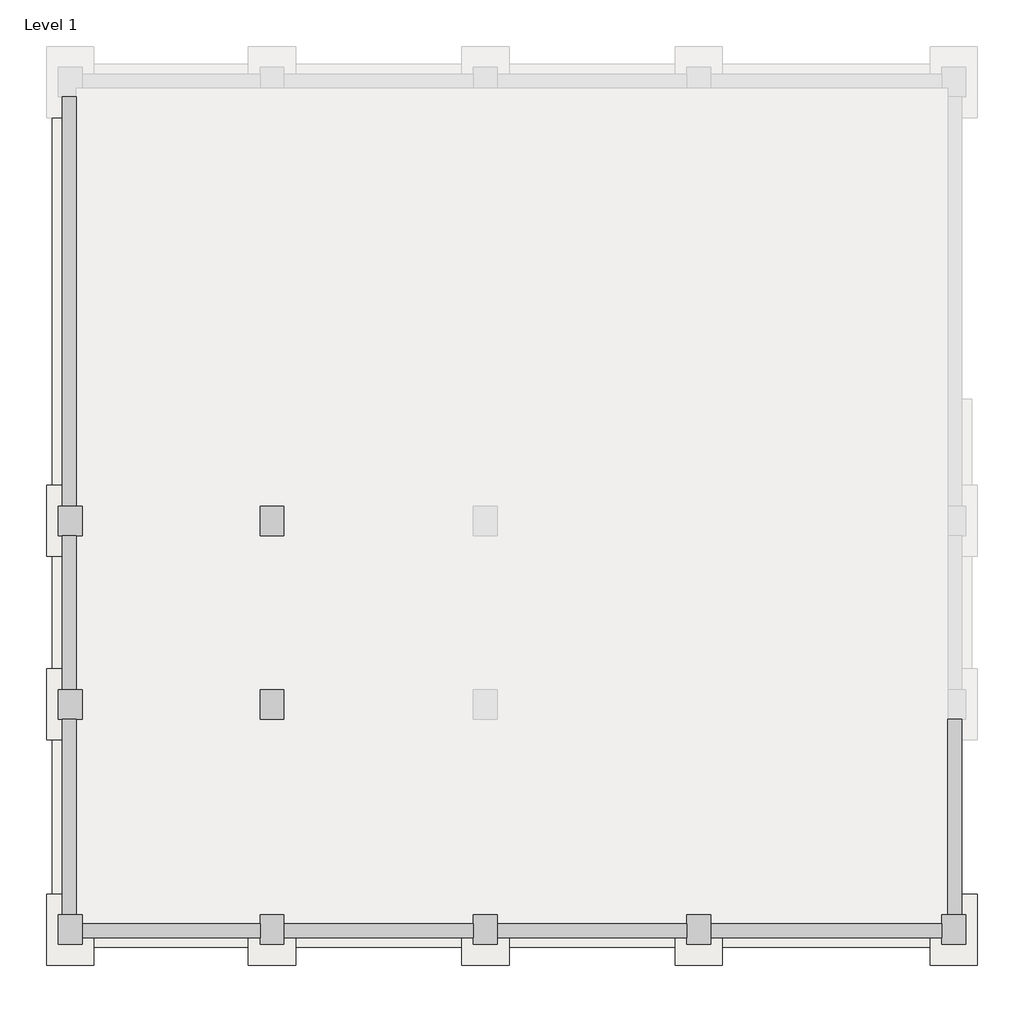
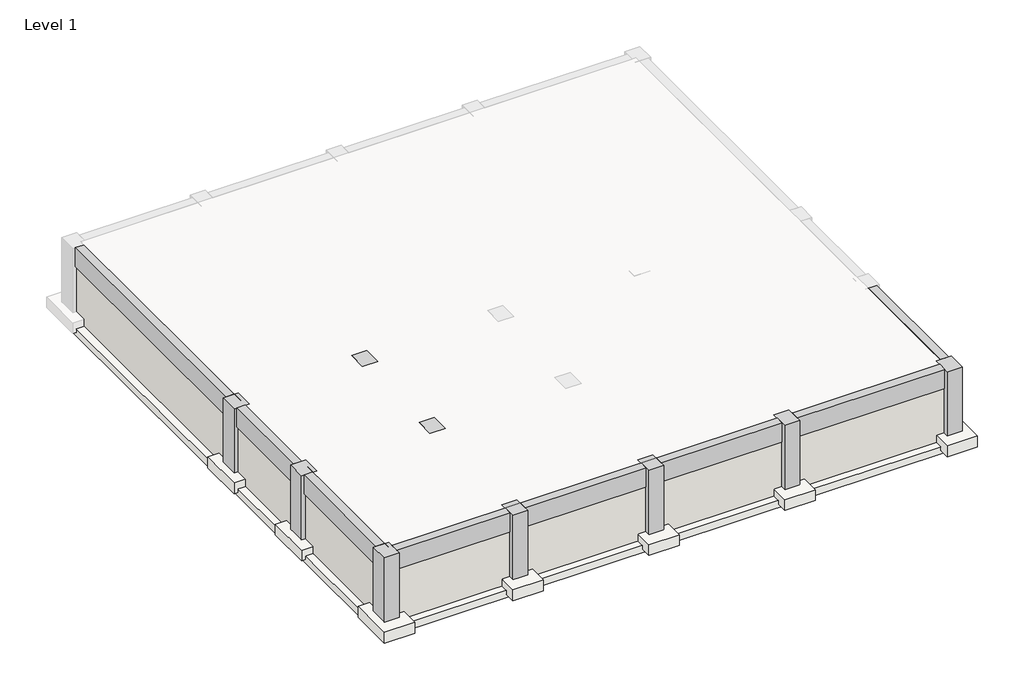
# One storey, part 1 of 2: 15 beams, 9 columns, 9 slabs, 4 walls, 2 footings.
"""IFC4 building model written with IfcOpenShell, lengths in millimetres."""

import ifcopenshell
import ifcopenshell.guid

model = None  # the IFC model being written
_history = None  # IfcOwnerHistory: only IFC2X3 demands one
_inside = {}  # id of a spatial element -> (the spatial element, [elements in it])
_under = {}  # id of a project, library or spatial element -> (it, [spatial elements below it])
_declared = {}  # id of a project -> (the project, [libraries it declares])
_typed = {}  # id of a type object -> (the type object, [elements of that type])
_made_of = {}  # id of a material, layer set ... -> (it, [elements and type objects made of it])


def new_model(schema):
    """Start an empty IFC model of exactly this schema.

    Asked for "IFC4X3", IfcOpenShell would pick the latest addendum, in which some entities
    have other attributes; the version numbers below select the first issue.
    IFC2X3 requires an IfcOwnerHistory on every rooted entity: one is made here for all.
    """
    global model, _history
    if schema == "IFC4X3":
        model = ifcopenshell.file(schema_version=(4, 3, 0, 0))
    else:
        model = ifcopenshell.file(schema=schema)
    _inside.clear()
    _under.clear()
    _declared.clear()
    _typed.clear()
    _made_of.clear()
    _history = None
    if model.schema == "IFC2X3":
        org = make("IfcOrganization", Name="unknown")
        user = make(
            "IfcPersonAndOrganization",
            ThePerson=make("IfcPerson", FamilyName="unknown"),
            TheOrganization=org,
        )
        app = make(
            "IfcApplication",
            ApplicationDeveloper=org,
            Version="unknown",
            ApplicationFullName="unknown",
            ApplicationIdentifier="unknown",
        )
        _history = make(
            "IfcOwnerHistory",
            OwningUser=user,
            OwningApplication=app,
            ChangeAction="ADDED",
            CreationDate=0,
        )
    return model


def make(cls, **values):
    """One entity of the class cls with the attributes given. An attribute that is None is left unset."""
    return model.create_entity(
        cls, **{name: value for name, value in values.items() if value is not None}
    )


def rooted(cls, **values):
    """An entity with a GlobalId (a new one), such as an element, a storey or a relation."""
    return make(cls, GlobalId=ifcopenshell.guid.new(), OwnerHistory=_history, **values)


def si_unit(unit_type, name, prefix=None):
    """IfcSIUnit, for example si_unit("LENGTHUNIT", "METRE", prefix="MILLI")."""
    return make("IfcSIUnit", UnitType=unit_type, Prefix=prefix, Name=name)


def assignment(units):
    """IfcUnitAssignment: the units of a project."""
    return None if units is None else make("IfcUnitAssignment", Units=units)


def point(xyz):
    """IfcCartesianPoint."""
    return None if xyz is None else make("IfcCartesianPoint", Coordinates=xyz)


def direction(xyz):
    """IfcDirection."""
    return None if xyz is None else make("IfcDirection", DirectionRatios=xyz)


def frame(location, z_axis=None, x_axis=None):
    """IfcAxis2Placement3D, a coordinate frame: its origin and axes. An axis left out is left unset."""
    return make(
        "IfcAxis2Placement3D",
        Location=point(location),
        Axis=direction(z_axis),
        RefDirection=direction(x_axis),
    )


def origin():
    """The frame at (0, 0, 0) with its axes left unset."""
    return frame((0.0, 0.0, 0.0))


def place(relative_to, where):
    """IfcLocalPlacement: puts the frame where relative to a parent placement (None: the world)."""
    return make(
        "IfcLocalPlacement", PlacementRelTo=relative_to, RelativePlacement=where
    )


def context(
    kind, dimensions, precision=None, world=None, true_north=None, identifier=None
):
    """IfcGeometricRepresentationContext, for example the 3D "Model" context."""
    return make(
        "IfcGeometricRepresentationContext",
        ContextIdentifier=identifier,
        ContextType=kind,
        CoordinateSpaceDimension=dimensions,
        Precision=precision,
        WorldCoordinateSystem=world,
        TrueNorth=true_north,
    )


def project(units=None, contexts=None):
    """IfcProject with its units and contexts."""
    return rooted(
        "IfcProject",
        Name="project",
        RepresentationContexts=contexts,
        UnitsInContext=assignment(units),
    )


def spatial(cls, under=None, at=None, **own):
    """A site, building, storey or space (cls), placed at a placement, below another one or the project."""
    s = rooted(cls, ObjectPlacement=at, **own)
    if under is not None:
        _under.setdefault(under.id(), (under, []))[1].append(s)
    return s


def polyline(points):
    """IfcPolyline through the points."""
    return make("IfcPolyline", Points=[point(p) for p in points])


def outline(outer, holes=None, kind="AREA"):
    """IfcArbitraryClosedProfileDef: a profile drawn as a closed curve; with holes, ...WithVoids."""
    if holes is None:
        return make("IfcArbitraryClosedProfileDef", ProfileType=kind, OuterCurve=outer)
    return make(
        "IfcArbitraryProfileDefWithVoids",
        ProfileType=kind,
        OuterCurve=outer,
        InnerCurves=holes,
    )


def extrude(swept, where, along, depth):
    """IfcExtrudedAreaSolid: the profile swept, set in the frame where, extruded along a direction by depth."""
    return make(
        "IfcExtrudedAreaSolid",
        SweptArea=swept,
        Position=where,
        ExtrudedDirection=direction(along),
        Depth=depth,
    )


def faces_of(points, faces, orient=None, outer=None):
    """IfcFace entities. A face is a list of loops; a loop is a list of indices into points, from 0.

    orient and outer hold one flag for each loop. By default every Orientation is true, the
    first loop of a face is its IfcFaceOuterBound and the others are IfcFaceBound.
    """
    made = []
    for i, loops in enumerate(faces):
        bounds = []
        for j, loop in enumerate(loops):
            is_outer = j == 0 if outer is None else outer[i][j]
            bounds.append(
                make(
                    "IfcFaceOuterBound" if is_outer else "IfcFaceBound",
                    Bound=make("IfcPolyLoop", Polygon=[points[k] for k in loop]),
                    Orientation=True if orient is None else orient[i][j],
                )
            )
        made.append(make("IfcFace", Bounds=bounds))
    return made


def faceted_brep(points, faces, orient=None, outer=None, voids=None):
    """IfcFacetedBrep: a solid bounded by flat faces; with voids (closed shells), ...WithVoids."""
    shared = [point(p) for p in points]
    hull = make("IfcClosedShell", CfsFaces=faces_of(shared, faces, orient, outer))
    if voids is None:
        return make("IfcFacetedBrep", Outer=hull)
    return make(
        "IfcFacetedBrepWithVoids",
        Outer=hull,
        Voids=[
            make(cls, CfsFaces=faces_of(shared, fs, o, b)) for cls, fs, o, b in voids
        ],
    )


def shape(context_of_items, identifier, shape_type, items):
    """IfcShapeRepresentation: the items that make up one representation, for example the "Body"."""
    return make(
        "IfcShapeRepresentation",
        ContextOfItems=context_of_items,
        RepresentationIdentifier=identifier,
        RepresentationType=shape_type,
        Items=items,
    )


def source(mapping_origin, context_of_items, identifier, shape_type, items):
    """IfcRepresentationMap: a shape defined once, which mapped items show again and again."""
    return make(
        "IfcRepresentationMap",
        MappingOrigin=mapping_origin,
        MappedRepresentation=shape(context_of_items, identifier, shape_type, items),
    )


def transform(
    local_origin,
    x_axis=None,
    y_axis=None,
    z_axis=None,
    scale=None,
    scale2=None,
    scale3=None,
    uniform=True,
):
    """IfcCartesianTransformationOperator3D, or its non-uniform kind. x_axis, y_axis, z_axis: its Axis1, 2, 3."""
    if uniform:
        return make(
            "IfcCartesianTransformationOperator3D",
            Axis1=direction(x_axis),
            Axis2=direction(y_axis),
            LocalOrigin=point(local_origin),
            Scale=scale,
            Axis3=direction(z_axis),
        )
    return make(
        "IfcCartesianTransformationOperator3DnonUniform",
        Axis1=direction(x_axis),
        Axis2=direction(y_axis),
        LocalOrigin=point(local_origin),
        Scale=scale,
        Axis3=direction(z_axis),
        Scale2=scale2,
        Scale3=scale3,
    )


def mapped(mapping_source, mapping_target):
    """IfcMappedItem: shows the shape of a source again, moved by a transform."""
    return make(
        "IfcMappedItem", MappingSource=mapping_source, MappingTarget=mapping_target
    )


def made_of(thing, what):
    """Note that an element or type object is made of a material, layer set ...; save() writes the relation."""
    if what is not None:
        _made_of.setdefault(what.id(), (what, []))[1].append(thing)
    return thing


def element(
    cls,
    number,
    at=None,
    inside=None,
    cuts=None,
    type_object=None,
    material=None,
    context=None,
    identifier="Body",
    shape_type=None,
    held_by="IfcProductDefinitionShape",
    body=None,
    shapes=None,
    **own,
):
    """One element of the class cls, such as IfcWall. Its Tag is "e" and its number.

    at: its placement. inside: the storey or other place that contains it. cuts: it is an
    opening in that element (IfcRelVoidsElement). A single representation is given by context,
    identifier, shape_type and body (its items); several are given by shapes. held_by: the class
    of the entity that holds the representations. save() writes the other relations.
    """
    e = rooted(cls, Tag="e%d" % number, ObjectPlacement=at, **own)
    if body is not None:
        shapes = [shape(context, identifier, shape_type, body)]
    if shapes is not None:
        e.Representation = make(held_by, Representations=shapes)
    if inside is not None:
        _inside.setdefault(inside.id(), (inside, []))[1].append(e)
    if cuts is not None:
        rooted(
            "IfcRelVoidsElement", RelatingBuildingElement=cuts, RelatedOpeningElement=e
        )
    if type_object is not None:
        _typed.setdefault(type_object.id(), (type_object, []))[1].append(e)
    return made_of(e, material)


def aggregate(whole, parts):
    """IfcRelAggregates: a whole, such as a stair, and the parts it consists of."""
    return rooted("IfcRelAggregates", RelatingObject=whole, RelatedObjects=parts)


def save(model, path):
    """Write the relations noted so far, then the file.

    IfcRelAggregates (storeys below a building ...), IfcRelContainedInSpatialStructure (elements
    in a storey), IfcRelDefinesByType, IfcRelAssociatesMaterial and IfcRelDeclares: one each for
    every whole, place, type object, material and project.
    """
    for whole, parts in _under.values():
        aggregate(whole, parts)
    for where, things in _inside.values():
        rooted(
            "IfcRelContainedInSpatialStructure",
            RelatedElements=things,
            RelatingStructure=where,
        )
    for kind, things in _typed.values():
        rooted("IfcRelDefinesByType", RelatedObjects=things, RelatingType=kind)
    for what, things in _made_of.values():
        rooted("IfcRelAssociatesMaterial", RelatedObjects=things, RelatingMaterial=what)
    for by, libraries in _declared.values():
        rooted("IfcRelDeclares", RelatingContext=by, RelatedDefinitions=libraries)
    model.write(path)


def slab_5ba74754(model_context):
    return source(origin(), model_context, "Body", "SweptSolid", [
        extrude(outline(polyline([(609.6, 914.4), (609.6, -914.4), (-609.6, -914.4), (-609.6, 914.4), (609.6, 914.4)])), frame((0.0, 0.0, -457.2), z_axis=(0.0, 0.0, 1.0), x_axis=(1.0, 0.0, 0.0)), (0.0, 0.0, 1.0), 457.2),
    ])


model = new_model("IFC4")

# Units and contexts
model_context = context("Model", 3, world=origin())
ifc_project = project(units=[si_unit("LENGTHUNIT", "METRE", prefix="MILLI")], contexts=[model_context])

# Site, building, storey
site = spatial("IfcSite", under=ifc_project)
building = spatial("IfcBuilding", under=site)
storey = spatial("IfcBuildingStorey", under=building, Name="Level 1", Elevation=0.0)

# Beams
placement = place(None, origin())
element("IfcBeam", 1, ObjectType="Concrete-Rectangular Beam : 16 x 32", at=placement, inside=storey, context=model_context, shape_type="SweptSolid", body=[
    extrude(outline(polyline([(0.0, -23099.4436514), (-812.8, -23099.4436514), (-812.8, -23048.6436514), (-609.6, -23048.6436514), (-609.6, -22743.8436514), (-812.8, -22743.8436514), (-812.8, -22693.0436514), (-152.4, -22693.0436514), (-152.4, -22743.8436514), (0.0, -22743.8436514), (0.0, -23099.4436514)])), frame((0.0, 5357.9493152, 0.0), z_axis=(0.0, 1.0, 0.0), x_axis=(0.0, 0.0, 1.0)), (0.0, 0.0, 1.0), 10515.8114283),
])
element("IfcBeam", 2, ObjectType="Concrete-Rectangular Beam : 16 x 32", at=placement, inside=storey, context=model_context, shape_type="SweptSolid", body=[
    extrude(outline(polyline([(0.0, -23099.4436514), (-812.8, -23099.4436514), (-812.8, -23048.6436514), (-609.6, -23048.6436514), (-609.6, -22743.8436514), (-812.8, -22743.8436514), (-812.8, -22693.0436514), (-152.4, -22693.0436514), (-152.4, -22743.8436514), (0.0, -22743.8436514), (0.0, -23099.4436514)])), frame((0.0, -5149.0224478, 0.0), z_axis=(0.0, 1.0, 0.0), x_axis=(0.0, 0.0, 1.0)), (0.0, 0.0, 1.0), 5029.2),
])
element("IfcBeam", 3, ObjectType="Concrete-Rectangular Beam : 16 x 32", at=placement, inside=storey, context=model_context, shape_type="SweptSolid", body=[
    extrude(outline(polyline([(-5733.2224478, -812.8), (-5733.2224478, 0.0), (-5377.6224478, 0.0), (-5377.6224478, -152.4), (-5326.8224478, -152.4), (-5326.8224478, -812.8), (-5377.6224478, -812.8), (-5377.6224478, -609.6), (-5682.4224478, -609.6), (-5682.4224478, -812.8), (-5733.2224478, -812.8)])), frame((-22591.4436514, 0.0, 0.0), z_axis=(1.0, 0.0, 0.0), x_axis=(0.0, 1.0, 0.0)), (0.0, 0.0, 1.0), 4572.0),
])
element("IfcBeam", 4, ObjectType="Concrete-Rectangular Beam : 16 x 32", at=placement, inside=storey, context=model_context, shape_type="SweptSolid", body=[
    extrude(outline(polyline([(0.0, -23099.4436514), (-812.8, -23099.4436514), (-812.8, -23048.6436514), (-609.6, -23048.6436514), (-609.6, -22743.8436514), (-812.8, -22743.8436514), (-812.8, -22693.0436514), (-152.4, -22693.0436514), (-152.4, -22743.8436514), (0.0, -22743.8436514), (0.0, -23099.4436514)])), frame((0.0, 642.1775522, 0.0), z_axis=(0.0, 1.0, 0.0), x_axis=(0.0, 0.0, 1.0)), (0.0, 0.0, 1.0), 3953.7717631),
])
element("IfcBeam", 5, ObjectType="Concrete-Rectangular Beam : 16 x 32", at=placement, inside=storey, context=model_context, shape_type="SweptSolid", body=[
    extrude(outline(polyline([(-5733.2224478, -812.8), (-5733.2224478, 0.0), (-5377.6224478, 0.0), (-5377.6224478, -152.4), (-5326.8224478, -152.4), (-5326.8224478, -812.8), (-5377.6224478, -812.8), (-5377.6224478, -609.6), (-5682.4224478, -609.6), (-5682.4224478, -812.8), (-5733.2224478, -812.8)])), frame((-17409.8436514, 0.0, 0.0), z_axis=(1.0, 0.0, 0.0), x_axis=(0.0, 1.0, 0.0)), (0.0, 0.0, 1.0), 4876.8),
])
element("IfcBeam", 6, ObjectType="Concrete-Rectangular Beam : 16 x 32", at=placement, inside=storey, context=model_context, shape_type="SweptSolid", body=[
    extrude(outline(polyline([(-5733.2224478, -812.8), (-5733.2224478, 0.0), (-5377.6224478, 0.0), (-5377.6224478, -152.4), (-5326.8224478, -152.4), (-5326.8224478, -812.8), (-5377.6224478, -812.8), (-5377.6224478, -609.6), (-5682.4224478, -609.6), (-5682.4224478, -812.8), (-5733.2224478, -812.8)])), frame((-11923.4436514, 0.0, 0.0), z_axis=(1.0, 0.0, 0.0), x_axis=(0.0, 1.0, 0.0)), (0.0, 0.0, 1.0), 4876.8),
])
element("IfcBeam", 7, ObjectType="Concrete-Rectangular Beam : 16 x 32", at=placement, inside=storey, context=model_context, shape_type="SweptSolid", body=[
    extrude(outline(polyline([(-5733.2224478, -812.8), (-5733.2224478, 0.0), (-5377.6224478, 0.0), (-5377.6224478, -152.4), (-5326.8224478, -152.4), (-5326.8224478, -812.8), (-5377.6224478, -812.8), (-5377.6224478, -609.6), (-5682.4224478, -609.6), (-5682.4224478, -812.8), (-5733.2224478, -812.8)])), frame((-6437.0436514, 0.0, 0.0), z_axis=(1.0, 0.0, 0.0), x_axis=(0.0, 1.0, 0.0)), (0.0, 0.0, 1.0), 5943.6),
])
element("IfcBeam", 8, ObjectType="Concrete-Rectangular Beam : 16 x 32", at=placement, inside=storey, context=model_context, shape_type="SweptSolid", body=[
    extrude(outline(polyline([(-812.8, 14.5563486), (0.0, 14.5563486), (0.0, -341.0436514), (-152.4, -341.0436514), (-152.4, -391.8436514), (-812.8, -391.8436514), (-812.8, 14.5563486)])), frame((0.0, -5149.0224478, 0.0), z_axis=(0.0, 1.0, 0.0), x_axis=(0.0, 0.0, 1.0)), (0.0, 0.0, 1.0), 5029.2),
])
element("IfcBeam", 9, ObjectType="Concrete-Rectangular Beam : 16 x 32", at=placement, inside=storey, context=model_context, shape_type="SweptSolid", body=[
    extrude(outline(polyline([(-17917.8436514, 5357.9493152), (-17917.8436514, 15873.7607436), (-17511.4436514, 15873.7607436), (-17511.4436514, 5357.9493152), (-17917.8436514, 5357.9493152)])), frame((0.0, 0.0, -812.8), z_axis=(0.0, 0.0, 1.0), x_axis=(1.0, 0.0, 0.0)), (0.0, 0.0, 1.0), 660.4),
])
element("IfcBeam", 10, ObjectType="Concrete-Rectangular Beam : 16 x 32", at=placement, inside=storey, context=model_context, shape_type="SweptSolid", body=[
    extrude(outline(polyline([(-17917.8436514, 4595.9493152), (-17511.4436514, 4595.9493152), (-17511.4436514, 642.1775522), (-17917.8436514, 642.1775522), (-17917.8436514, 4595.9493152)])), frame((0.0, 0.0, -812.8), z_axis=(0.0, 0.0, 1.0), x_axis=(1.0, 0.0, 0.0)), (0.0, 0.0, 1.0), 660.4),
])
element("IfcBeam", 11, ObjectType="Concrete-Rectangular Beam : 16 x 32", at=placement, inside=storey, context=model_context, shape_type="SweptSolid", body=[
    extrude(outline(polyline([(-17917.8436514, -5149.0224478), (-17917.8436514, -119.8224478), (-17511.4436514, -119.8224478), (-17511.4436514, -5149.0224478), (-17917.8436514, -5149.0224478)])), frame((0.0, 0.0, -812.8), z_axis=(0.0, 0.0, 1.0), x_axis=(1.0, 0.0, 0.0)), (0.0, 0.0, 1.0), 660.4),
])
element("IfcBeam", 12, ObjectType="Concrete-Rectangular Beam : 16 x 32", at=placement, inside=storey, context=model_context, shape_type="SweptSolid", body=[
    extrude(outline(polyline([(-12431.4436514, -5149.0224478), (-12431.4436514, -119.8224478), (-12025.0436514, -119.8224478), (-12025.0436514, -5149.0224478), (-12431.4436514, -5149.0224478)])), frame((0.0, 0.0, -812.8), z_axis=(0.0, 0.0, 1.0), x_axis=(1.0, 0.0, 0.0)), (0.0, 0.0, 1.0), 660.4),
])
element("IfcBeam", 13, ObjectType="Concrete-Rectangular Beam : 16 x 32", at=placement, inside=storey, context=model_context, shape_type="SweptSolid", body=[
    extrude(outline(polyline([(-6945.0436514, -5149.0224478), (-6945.0436514, -119.8224478), (-6538.6436514, -119.8224478), (-6538.6436514, -5149.0224478), (-6945.0436514, -5149.0224478)])), frame((0.0, 0.0, -812.8), z_axis=(0.0, 0.0, 1.0), x_axis=(1.0, 0.0, 0.0)), (0.0, 0.0, 1.0), 660.4),
])
element("IfcBeam", 14, ObjectType="Concrete-Rectangular Beam : 16 x 32", at=placement, inside=storey, context=model_context, shape_type="SweptSolid", body=[
    extrude(outline(polyline([(-22591.4436514, 4773.7493152), (-22591.4436514, 5180.1493152), (-18019.4436514, 5180.1493152), (-18019.4436514, 4773.7493152), (-22591.4436514, 4773.7493152)])), frame((0.0, 0.0, -812.8), z_axis=(0.0, 0.0, 1.0), x_axis=(1.0, 0.0, 0.0)), (0.0, 0.0, 1.0), 660.4),
])
element("IfcBeam", 15, ObjectType="Concrete-Rectangular Beam : 16 x 32", at=placement, inside=storey, context=model_context, shape_type="SweptSolid", body=[
    extrude(outline(polyline([(-22591.4436514, 57.9775522), (-22591.4436514, 464.3775522), (-18019.4436514, 464.3775522), (-18019.4436514, 57.9775522), (-22591.4436514, 57.9775522)])), frame((0.0, 0.0, -812.8), z_axis=(0.0, 0.0, 1.0), x_axis=(1.0, 0.0, 0.0)), (0.0, 0.0, 1.0), 660.4),
])

# Columns
element("IfcColumn", 16, ObjectType="Concrete-Rectangular-Column : 24 x 30", at=placement, inside=storey, context=model_context, shape_type="SweptSolid", body=[
    extrude(outline(polyline([(-2743.2, -22591.4436514), (0.0, -22591.4436514), (0.0, -23201.0436514), (-2743.2, -23201.0436514), (-2743.2, -23048.6436514), (-609.6, -23048.6436514), (-609.6, -22743.8436514), (-2743.2, -22743.8436514), (-2743.2, -22591.4436514)])), frame((0.0, 4595.9493152, 0.0), z_axis=(0.0, 1.0, 0.0), x_axis=(0.0, 0.0, 1.0)), (0.0, 0.0, 1.0), 762.0),
])
element("IfcColumn", 17, ObjectType="Concrete-Rectangular-Column : 24 x 30", at=placement, inside=storey, context=model_context, shape_type="SweptSolid", body=[
    extrude(outline(polyline([(-17409.8436514, 5357.9493152), (-17409.8436514, 4595.9493152), (-18019.4436514, 4595.9493152), (-18019.4436514, 5357.9493152), (-17409.8436514, 5357.9493152)])), frame((0.0, 0.0, -2743.2), z_axis=(0.0, 0.0, 1.0), x_axis=(1.0, 0.0, 0.0)), (0.0, 0.0, 1.0), 2743.2),
])
element("IfcColumn", 18, ObjectType="Concrete-Rectangular-Column : 24 x 30", at=placement, inside=storey, context=model_context, shape_type="Brep", body=[
    faceted_brep([(-22743.8436514, -5149.0224478, -2743.2), (-22591.4436514, -5149.0224478, -2743.2), (-22591.4436514, -5377.6224478, -2743.2), (-22743.8436514, -5377.6224478, -2743.2), (-22591.4436514, -5149.0224478, 0.0), (-22591.4436514, -5911.0224478, 0.0), (-22591.4436514, -5911.0224478, -2743.2), (-22591.4436514, -5682.4224478, -2743.2), (-22591.4436514, -5682.4224478, -609.6), (-22591.4436514, -5377.6224478, -609.6), (-23201.0436514, -5911.0224478, -2743.2), (-23201.0436514, -5911.0224478, 0.0), (-23201.0436514, -5149.0224478, -2743.2), (-23201.0436514, -5149.0224478, 0.0), (-22743.8436514, -5149.0224478, -609.6), (-23048.6436514, -5149.0224478, -609.6), (-23048.6436514, -5149.0224478, -2743.2), (-23048.6436514, -5682.4224478, -609.6), (-23048.6436514, -5682.4224478, -2743.2), (-22743.8436514, -5377.6224478, -609.6), (-22743.8436514, -5682.4224478, -609.6)], [[[0, 1, 2, 3]], [[4, 5, 6, 7, 8, 9, 2, 1]], [[10, 6, 5, 11]], [[12, 10, 11, 13]], [[4, 1, 0, 14, 15, 16, 12, 13]], [[5, 4, 13, 11]], [[15, 17, 18, 16]], [[14, 0, 3, 19]], [[17, 15, 14, 19, 9, 8, 20]], [[17, 20, 8, 7, 18]], [[9, 19, 3, 2]], [[6, 10, 12, 16, 18, 7]]]),
])
element("IfcColumn", 19, ObjectType="Concrete-Rectangular-Column : 24 x 30", at=placement, inside=storey, context=model_context, shape_type="SweptSolid", body=[
    extrude(outline(polyline([(-5911.0224478, -2743.2), (-5911.0224478, 0.0), (-5149.0224478, 0.0), (-5149.0224478, -2743.2), (-5377.6224478, -2743.2), (-5377.6224478, -609.6), (-5682.4224478, -609.6), (-5682.4224478, -2743.2), (-5911.0224478, -2743.2)])), frame((-18019.4436514, 0.0, 0.0), z_axis=(1.0, 0.0, 0.0), x_axis=(0.0, 1.0, 0.0)), (0.0, 0.0, 1.0), 609.6),
])
element("IfcColumn", 20, ObjectType="Concrete-Rectangular-Column : 24 x 30", at=placement, inside=storey, context=model_context, shape_type="SweptSolid", body=[
    extrude(outline(polyline([(-5911.0224478, -2743.2), (-5911.0224478, 0.0), (-5149.0224478, 0.0), (-5149.0224478, -2743.2), (-5377.6224478, -2743.2), (-5377.6224478, -609.6), (-5682.4224478, -609.6), (-5682.4224478, -2743.2), (-5911.0224478, -2743.2)])), frame((-12533.0436514, 0.0, 0.0), z_axis=(1.0, 0.0, 0.0), x_axis=(0.0, 1.0, 0.0)), (0.0, 0.0, 1.0), 609.6),
])
element("IfcColumn", 21, ObjectType="Concrete-Rectangular-Column : 24 x 30", at=placement, inside=storey, context=model_context, shape_type="SweptSolid", body=[
    extrude(outline(polyline([(-5911.0224478, -2743.2), (-5911.0224478, 0.0), (-5149.0224478, 0.0), (-5149.0224478, -2743.2), (-5377.6224478, -2743.2), (-5377.6224478, -609.6), (-5682.4224478, -609.6), (-5682.4224478, -2743.2), (-5911.0224478, -2743.2)])), frame((-7046.6436514, 0.0, 0.0), z_axis=(1.0, 0.0, 0.0), x_axis=(0.0, 1.0, 0.0)), (0.0, 0.0, 1.0), 609.6),
])
element("IfcColumn", 22, ObjectType="Concrete-Rectangular-Column : 24 x 30", at=placement, inside=storey, context=model_context, shape_type="Brep", body=[
    faceted_brep([(116.1563486, -5149.0224478, -2743.2), (116.1563486, -5911.0224478, -2743.2), (-493.4436514, -5911.0224478, -2743.2), (-493.4436514, -5682.4224478, -2743.2), (-188.6436514, -5682.4224478, -2743.2), (-188.6436514, -5377.6224478, -2743.2), (-493.4436514, -5377.6224478, -2743.2), (-493.4436514, -5149.0224478, -2743.2), (116.1563486, -5149.0224478, 0.0), (116.1563486, -5911.0224478, 0.0), (-493.4436514, -5911.0224478, 0.0), (-493.4436514, -5149.0224478, 0.0), (-493.4436514, -5377.6224478, -609.6), (-493.4436514, -5682.4224478, -609.6), (-188.6436514, -5682.4224478, -609.6), (-188.6436514, -5377.6224478, -609.6)], [[[0, 1, 2, 3, 4, 5, 6, 7]], [[1, 0, 8, 9]], [[2, 1, 9, 10]], [[2, 10, 11, 7, 6, 12, 13, 3]], [[0, 7, 11, 8]], [[9, 8, 11, 10]], [[13, 14, 4, 3]], [[5, 15, 12, 6]], [[15, 14, 13, 12]], [[14, 15, 5, 4]]]),
])
element("IfcColumn", 23, ObjectType="Concrete-Rectangular-Column : 24 x 30", at=placement, inside=storey, context=model_context, shape_type="SweptSolid", body=[
    extrude(outline(polyline([(-2743.2, -22591.4436514), (0.0, -22591.4436514), (0.0, -23201.0436514), (-2743.2, -23201.0436514), (-2743.2, -23048.6436514), (-609.6, -23048.6436514), (-609.6, -22743.8436514), (-2743.2, -22743.8436514), (-2743.2, -22591.4436514)])), frame((0.0, -119.8224478, 0.0), z_axis=(0.0, 1.0, 0.0), x_axis=(0.0, 0.0, 1.0)), (0.0, 0.0, 1.0), 762.0),
])
element("IfcColumn", 24, ObjectType="Concrete-Rectangular-Column : 24 x 30", at=placement, inside=storey, context=model_context, shape_type="SweptSolid", body=[
    extrude(outline(polyline([(-17409.8436514, 642.1775522), (-17409.8436514, -119.8224478), (-18019.4436514, -119.8224478), (-18019.4436514, 642.1775522), (-17409.8436514, 642.1775522)])), frame((0.0, 0.0, -2743.2), z_axis=(0.0, 0.0, 1.0), x_axis=(1.0, 0.0, 0.0)), (0.0, 0.0, 1.0), 2743.2),
])

# Footings
element("IfcFooting", 25, ObjectType="Bearing Footing - 36\" x 12\"", at=placement, inside=storey, context=model_context, shape_type="Brep", body=[
    faceted_brep([(-188.6436514, -5987.2224478, -3352.8), (-188.6436514, -5072.8224478, -3352.8), (-188.6436514, -5072.8224478, -3200.4), (-188.6436514, -5987.2224478, -3200.4), (-22286.6436514, -5072.8224478, -3048.0), (-22286.6436514, -5987.2224478, -3048.0), (-18324.2436514, -5987.2224478, -3048.0), (-18324.2436514, -5072.8224478, -3048.0), (-17105.0436514, -5072.8224478, -3048.0), (-17105.0436514, -5987.2224478, -3048.0), (-12837.8436514, -5987.2224478, -3048.0), (-12837.8436514, -5072.8224478, -3048.0), (-11618.6436514, -5072.8224478, -3048.0), (-11618.6436514, -5987.2224478, -3048.0), (-7351.4436514, -5987.2224478, -3048.0), (-7351.4436514, -5072.8224478, -3048.0), (-6132.2436514, -5072.8224478, -3048.0), (-6132.2436514, -5987.2224478, -3048.0), (-798.2436514, -5987.2224478, -3048.0), (-798.2436514, -5072.8224478, -3048.0), (-22439.0436514, -5072.8224478, -3352.8), (-23353.4436514, -5072.8224478, -3352.8), (-23353.4436514, -5072.8224478, -3200.4), (-22439.0436514, -5072.8224478, -3200.4), (-22286.6436514, -5072.8224478, -3200.4), (-18324.2436514, -5072.8224478, -3200.4), (-17105.0436514, -5072.8224478, -3200.4), (-12837.8436514, -5072.8224478, -3200.4), (-11618.6436514, -5072.8224478, -3200.4), (-7351.4436514, -5072.8224478, -3200.4), (-6132.2436514, -5072.8224478, -3200.4), (-798.2436514, -5072.8224478, -3200.4), (-23353.4436514, -5987.2224478, -3352.8), (-798.2436514, -5987.2224478, -3200.4), (-6132.2436514, -5987.2224478, -3200.4), (-7351.4436514, -5987.2224478, -3200.4), (-11618.6436514, -5987.2224478, -3200.4), (-12837.8436514, -5987.2224478, -3200.4), (-17105.0436514, -5987.2224478, -3200.4), (-18324.2436514, -5987.2224478, -3200.4), (-22286.6436514, -5987.2224478, -3200.4), (-23353.4436514, -5987.2224478, -3200.4)], [[[0, 1, 2, 3]], [[4, 5, 6, 7]], [[8, 9, 10, 11]], [[12, 13, 14, 15]], [[16, 17, 18, 19]], [[1, 20, 21, 22, 23, 24, 4, 7, 25, 26, 8, 11, 27, 28, 12, 15, 29, 30, 16, 19, 31, 2]], [[1, 0, 32, 21, 20]], [[32, 0, 3, 33, 18, 17, 34, 35, 14, 13, 36, 37, 10, 9, 38, 39, 6, 5, 40, 41]], [[40, 24, 23, 22, 41]], [[24, 40, 5, 4]], [[25, 39, 38, 26]], [[39, 25, 7, 6]], [[26, 38, 9, 8]], [[27, 37, 36, 28]], [[37, 27, 11, 10]], [[28, 36, 13, 12]], [[29, 35, 34, 30]], [[35, 29, 15, 14]], [[30, 34, 17, 16]], [[31, 33, 3, 2]], [[33, 31, 19, 18]], [[21, 32, 41, 22]]]),
])
element("IfcFooting", 26, ObjectType="Bearing Footing - 36\" x 12\"", at=placement, inside=storey, context=model_context, shape_type="SweptSolid", body=[
    extrude(outline(polyline([(15340.3607436, -3048.0), (15340.3607436, -3200.4), (15797.5607436, -3200.4), (15797.5607436, -3352.8), (-5072.8224478, -3352.8), (-5072.8224478, -3200.4), (-4615.6224478, -3200.4), (-4615.6224478, -3048.0), (-653.2224478, -3048.0), (-653.2224478, -3200.4), (1175.5775522, -3200.4), (1175.5775522, -3048.0), (4062.5493152, -3048.0), (4062.5493152, -3200.4), (5891.3493152, -3200.4), (5891.3493152, -3048.0), (15340.3607436, -3048.0)])), frame((-23353.4436514, 0.0, 0.0), z_axis=(1.0, 0.0, 0.0), x_axis=(0.0, 1.0, 0.0)), (0.0, 0.0, 1.0), 914.4),
])

# Slabs
element("IfcSlab", 27, ObjectType="Footing-Rectangular : 72\" x 48\" x 18\"", at=placement, inside=storey, context=model_context, shape_type="Brep", body=[
    faceted_brep([(-22286.6436514, 5891.3493152, -2743.2), (-23505.8436514, 5891.3493152, -2743.2), (-23505.8436514, 4062.5493152, -2743.2), (-22286.6436514, 4062.5493152, -2743.2), (-22286.6436514, 5891.3493152, -3200.4), (-22286.6436514, 4062.5493152, -3200.4), (-22439.0436514, 4062.5493152, -3200.4), (-23353.4436514, 4062.5493152, -3200.4), (-23505.8436514, 4062.5493152, -3200.4), (-23505.8436514, 5891.3493152, -3200.4), (-23353.4436514, 5891.3493152, -3200.4), (-22439.0436514, 5891.3493152, -3200.4)], [[[0, 1, 2, 3]], [[4, 5, 6, 7, 8, 9, 10, 11]], [[1, 0, 4, 11, 10, 9]], [[2, 1, 9, 8]], [[3, 2, 8, 7, 6, 5]], [[0, 3, 5, 4]]]),
])
element("IfcSlab", 28, ObjectType="Footing-Rectangular : 72\" x 48\" x 18\"", at=placement, inside=storey, context=model_context, shape_type="Brep", body=[
    faceted_brep([(-22286.6436514, -4615.6224478, -2743.2), (-23505.8436514, -4615.6224478, -2743.2), (-23505.8436514, -6444.4224478, -2743.2), (-22286.6436514, -6444.4224478, -2743.2), (-22286.6436514, -4615.6224478, -3200.4), (-22286.6436514, -5072.8224478, -3200.4), (-22286.6436514, -5987.2224478, -3200.4), (-22286.6436514, -6444.4224478, -3200.4), (-23505.8436514, -6444.4224478, -3200.4), (-23505.8436514, -4615.6224478, -3200.4), (-23353.4436514, -4615.6224478, -3200.4), (-22439.0436514, -4615.6224478, -3200.4)], [[[0, 1, 2, 3]], [[4, 5, 6, 7, 8, 9, 10, 11]], [[1, 0, 4, 11, 10, 9]], [[2, 1, 9, 8]], [[3, 2, 8, 7]], [[0, 3, 7, 6, 5, 4]]]),
])
element("IfcSlab", 29, ObjectType="Footing-Rectangular : 72\" x 48\" x 18\"", at=placement, inside=storey, context=model_context, shape_type="Brep", body=[
    faceted_brep([(-22286.6436514, 1175.5775522, -2743.2), (-23505.8436514, 1175.5775522, -2743.2), (-23505.8436514, -653.2224478, -2743.2), (-22286.6436514, -653.2224478, -2743.2), (-22286.6436514, 1175.5775522, -3200.4), (-22286.6436514, -653.2224478, -3200.4), (-22439.0436514, -653.2224478, -3200.4), (-23353.4436514, -653.2224478, -3200.4), (-23505.8436514, -653.2224478, -3200.4), (-23505.8436514, 1175.5775522, -3200.4), (-23353.4436514, 1175.5775522, -3200.4), (-22439.0436514, 1175.5775522, -3200.4)], [[[0, 1, 2, 3]], [[4, 5, 6, 7, 8, 9, 10, 11]], [[1, 0, 4, 11, 10, 9]], [[2, 1, 9, 8]], [[3, 2, 8, 7, 6, 5]], [[0, 3, 5, 4]]]),
])
element("IfcSlab", 30, ObjectType="Footing-Rectangular : 72\" x 48\" x 18\"", at=placement, inside=storey, context=model_context, shape_type="Brep", body=[
    faceted_brep([(-17105.0436514, -4615.6224478, -2743.2), (-18324.2436514, -4615.6224478, -2743.2), (-18324.2436514, -6444.4224478, -2743.2), (-17105.0436514, -6444.4224478, -2743.2), (-17105.0436514, -4615.6224478, -3200.4), (-17105.0436514, -5072.8224478, -3200.4), (-17105.0436514, -5987.2224478, -3200.4), (-17105.0436514, -6444.4224478, -3200.4), (-18324.2436514, -6444.4224478, -3200.4), (-18324.2436514, -5987.2224478, -3200.4), (-18324.2436514, -5072.8224478, -3200.4), (-18324.2436514, -4615.6224478, -3200.4)], [[[0, 1, 2, 3]], [[4, 5, 6, 7, 8, 9, 10, 11]], [[1, 0, 4, 11]], [[2, 1, 11, 10, 9, 8]], [[3, 2, 8, 7]], [[0, 3, 7, 6, 5, 4]]]),
])
element("IfcSlab", 31, ObjectType="Footing-Rectangular : 72\" x 48\" x 18\"", at=placement, inside=storey, context=model_context, shape_type="Brep", body=[
    faceted_brep([(-11618.6436514, -4615.6224478, -2743.2), (-12837.8436514, -4615.6224478, -2743.2), (-12837.8436514, -6444.4224478, -2743.2), (-11618.6436514, -6444.4224478, -2743.2), (-11618.6436514, -4615.6224478, -3200.4), (-11618.6436514, -5072.8224478, -3200.4), (-11618.6436514, -5987.2224478, -3200.4), (-11618.6436514, -6444.4224478, -3200.4), (-12837.8436514, -6444.4224478, -3200.4), (-12837.8436514, -5987.2224478, -3200.4), (-12837.8436514, -5072.8224478, -3200.4), (-12837.8436514, -4615.6224478, -3200.4)], [[[0, 1, 2, 3]], [[4, 5, 6, 7, 8, 9, 10, 11]], [[1, 0, 4, 11]], [[2, 1, 11, 10, 9, 8]], [[3, 2, 8, 7]], [[0, 3, 7, 6, 5, 4]]]),
])
element("IfcSlab", 32, ObjectType="Footing-Rectangular : 72\" x 48\" x 18\"", at=placement, inside=storey, context=model_context, shape_type="Brep", body=[
    faceted_brep([(-6132.2436514, -4615.6224478, -2743.2), (-7351.4436514, -4615.6224478, -2743.2), (-7351.4436514, -6444.4224478, -2743.2), (-6132.2436514, -6444.4224478, -2743.2), (-6132.2436514, -4615.6224478, -3200.4), (-6132.2436514, -5072.8224478, -3200.4), (-6132.2436514, -5987.2224478, -3200.4), (-6132.2436514, -6444.4224478, -3200.4), (-7351.4436514, -6444.4224478, -3200.4), (-7351.4436514, -5987.2224478, -3200.4), (-7351.4436514, -5072.8224478, -3200.4), (-7351.4436514, -4615.6224478, -3200.4)], [[[0, 1, 2, 3]], [[4, 5, 6, 7, 8, 9, 10, 11]], [[1, 0, 4, 11]], [[2, 1, 11, 10, 9, 8]], [[3, 2, 8, 7]], [[0, 3, 7, 6, 5, 4]]]),
])
element("IfcSlab", 33, ObjectType="Footing-Rectangular : 72\" x 48\" x 18\"", at=placement, inside=storey, context=model_context, shape_type="Brep", body=[
    faceted_brep([(420.9563486, -4615.6224478, -2743.2), (-798.2436514, -4615.6224478, -2743.2), (-798.2436514, -6444.4224478, -2743.2), (420.9563486, -6444.4224478, -2743.2), (420.9563486, -4615.6224478, -3200.4), (420.9563486, -6444.4224478, -3200.4), (-798.2436514, -6444.4224478, -3200.4), (-798.2436514, -5987.2224478, -3200.4), (-798.2436514, -5072.8224478, -3200.4), (-798.2436514, -4615.6224478, -3200.4)], [[[0, 1, 2, 3]], [[4, 5, 6, 7, 8, 9]], [[1, 0, 4, 9]], [[2, 1, 9, 8, 7, 6]], [[3, 2, 6, 5]], [[0, 3, 5, 4]]]),
])
slab_shape = slab_5ba74754(model_context)
element("IfcSlab", 34, ObjectType="Footing-Rectangular : 72\" x 48\" x 18\"", at=placement, inside=storey, context=model_context, shape_type="MappedRepresentation", body=[
    mapped(slab_shape, transform((-17714.6436514, 4976.9493152, -2743.2), x_axis=(1.0, 0.0, 0.0), y_axis=(0.0, 1.0, 0.0), z_axis=(0.0, 0.0, 1.0))),
])
element("IfcSlab", 35, ObjectType="Footing-Rectangular : 72\" x 48\" x 18\"", at=placement, inside=storey, context=model_context, shape_type="MappedRepresentation", body=[
    mapped(slab_shape, transform((-17714.6436514, 261.1775522, -2743.2), x_axis=(1.0, 0.0, 0.0), y_axis=(0.0, 1.0, 0.0), z_axis=(0.0, 0.0, 1.0))),
])

# Walls
element("IfcWall", 36, ObjectType="Retaining - 12\" Concrete", at=placement, inside=storey, context=model_context, shape_type="Brep", body=[
    faceted_brep([(-23048.6436514, 16102.3607436, -3048.0), (-22743.8436514, 16102.3607436, -3048.0), (-188.6436514, 16102.3607436, -3048.0), (-188.6436514, 16102.3607436, -2743.2), (-188.6436514, 16102.3607436, -609.6), (-493.4436514, 16102.3607436, -609.6), (-6437.0436514, 16102.3607436, -609.6), (-7046.6436514, 16102.3607436, -609.6), (-11923.4436514, 16102.3607436, -609.6), (-12533.0436514, 16102.3607436, -609.6), (-17409.8436514, 16102.3607436, -609.6), (-18019.4436514, 16102.3607436, -609.6), (-22591.4436514, 16102.3607436, -609.6), (-22743.8436514, 16102.3607436, -609.6), (-23048.6436514, 16102.3607436, -609.6), (-23048.6436514, 16407.1607436, -3048.0), (-23048.6436514, 16407.1607436, -2743.2), (-23048.6436514, 16407.1607436, -609.6), (-22591.4436514, 16407.1607436, -609.6), (-18019.4436514, 16407.1607436, -609.6), (-17409.8436514, 16407.1607436, -609.6), (-12533.0436514, 16407.1607436, -609.6), (-11923.4436514, 16407.1607436, -609.6), (-7046.6436514, 16407.1607436, -609.6), (-6437.0436514, 16407.1607436, -609.6), (-493.4436514, 16407.1607436, -609.6), (-188.6436514, 16407.1607436, -609.6), (-188.6436514, 16407.1607436, -2743.2), (-188.6436514, 16407.1607436, -3048.0)], [[[0, 1, 2, 3, 4, 5, 6, 7, 8, 9, 10, 11, 12, 13, 14]], [[15, 16, 17, 18, 19, 20, 21, 22, 23, 24, 25, 26, 27, 28]], [[2, 1, 0, 15, 28]], [[4, 3, 2, 28, 27, 26]], [[14, 13, 12, 11, 10, 9, 8, 7, 6, 5, 4, 26, 25, 24, 23, 22, 21, 20, 19, 18, 17]], [[0, 14, 17, 16, 15]]]),
])
element("IfcWall", 37, ObjectType="Retaining - 12\" Concrete", at=placement, inside=storey, context=model_context, shape_type="Brep", body=[
    faceted_brep([(-341.0436514, 8109.7775522, -3048.0), (-341.0436514, -119.8224478, -3048.0), (-341.0436514, -119.8224478, -2743.2), (-341.0436514, -119.8224478, -609.6), (-341.0436514, 642.1775522, -609.6), (-341.0436514, 4595.9493152, -609.6), (-341.0436514, 5357.9493152, -609.6), (-341.0436514, 8109.7775522, -609.6), (-341.0436514, 8109.7775522, -812.8), (-36.2436514, 8109.7775522, -3048.0), (-36.2436514, 8109.7775522, -812.8), (-36.2436514, 8109.7775522, -609.6), (-36.2436514, 5357.9493152, -609.6), (-36.2436514, 4595.9493152, -609.6), (-36.2436514, 642.1775522, -609.6), (-36.2436514, -119.8224478, -609.6), (-36.2436514, -119.8224478, -2743.2), (-36.2436514, -119.8224478, -3048.0)], [[[0, 1, 2, 3, 4, 5, 6, 7, 8]], [[9, 10, 11, 12, 13, 14, 15, 16, 17]], [[1, 0, 9, 17]], [[3, 2, 1, 17, 16, 15]], [[7, 6, 5, 4, 3, 15, 14, 13, 12, 11]], [[0, 8, 7, 11, 10, 9]]]),
])
element("IfcWall", 38, ObjectType="Retaining - 12\" Concrete", at=placement, inside=storey, context=model_context, shape_type="Brep", body=[
    faceted_brep([(-23048.6436514, 16102.3607436, -3048.0), (-23048.6436514, -5682.4224478, -3048.0), (-23048.6436514, -5682.4224478, -2743.2), (-23048.6436514, -5682.4224478, -609.6), (-23048.6436514, -5149.0224478, -609.6), (-23048.6436514, -119.8224478, -609.6), (-23048.6436514, 642.1775522, -609.6), (-23048.6436514, 4595.9493152, -609.6), (-23048.6436514, 5357.9493152, -609.6), (-23048.6436514, 15873.7607436, -609.6), (-23048.6436514, 16102.3607436, -609.6), (-22743.8436514, 16102.3607436, -3048.0), (-22743.8436514, 16102.3607436, -2743.2), (-22743.8436514, 16102.3607436, -609.6), (-22743.8436514, 15873.7607436, -609.6), (-22743.8436514, 5357.9493152, -609.6), (-22743.8436514, 4595.9493152, -609.6), (-22743.8436514, 642.1775522, -609.6), (-22743.8436514, -119.8224478, -609.6), (-22743.8436514, -5149.0224478, -609.6), (-22743.8436514, -5377.6224478, -609.6), (-22743.8436514, -5682.4224478, -609.6), (-22743.8436514, -5682.4224478, -3048.0), (-22743.8436514, -5377.6224478, -3048.0)], [[[0, 1, 2, 3, 4, 5, 6, 7, 8, 9, 10]], [[11, 12, 13, 14, 15, 16, 17, 18, 19, 20, 21, 22, 23]], [[1, 0, 11, 23, 22]], [[10, 9, 8, 7, 6, 5, 4, 3, 21, 20, 19, 18, 17, 16, 15, 14, 13]], [[0, 10, 13, 12, 11]], [[3, 2, 1, 22, 21]]]),
])
element("IfcWall", 39, ObjectType="Retaining - 12\" Concrete", at=placement, inside=storey, context=model_context, shape_type="Brep", body=[
    faceted_brep([(-22743.8436514, -5682.4224478, -3048.0), (-188.6436514, -5682.4224478, -3048.0), (-188.6436514, -5682.4224478, -2743.2), (-188.6436514, -5682.4224478, -609.6), (-493.4436514, -5682.4224478, -609.6), (-6437.0436514, -5682.4224478, -609.6), (-7046.6436514, -5682.4224478, -609.6), (-11923.4436514, -5682.4224478, -609.6), (-12533.0436514, -5682.4224478, -609.6), (-17409.8436514, -5682.4224478, -609.6), (-18019.4436514, -5682.4224478, -609.6), (-22591.4436514, -5682.4224478, -609.6), (-22743.8436514, -5682.4224478, -609.6), (-22743.8436514, -5377.6224478, -3048.0), (-22743.8436514, -5377.6224478, -2743.2), (-22743.8436514, -5377.6224478, -609.6), (-22591.4436514, -5377.6224478, -609.6), (-18019.4436514, -5377.6224478, -609.6), (-17409.8436514, -5377.6224478, -609.6), (-12533.0436514, -5377.6224478, -609.6), (-11923.4436514, -5377.6224478, -609.6), (-7046.6436514, -5377.6224478, -609.6), (-6437.0436514, -5377.6224478, -609.6), (-493.4436514, -5377.6224478, -609.6), (-188.6436514, -5377.6224478, -609.6), (-188.6436514, -5377.6224478, -2743.2), (-188.6436514, -5377.6224478, -3048.0)], [[[0, 1, 2, 3, 4, 5, 6, 7, 8, 9, 10, 11, 12]], [[13, 14, 15, 16, 17, 18, 19, 20, 21, 22, 23, 24, 25, 26]], [[1, 0, 13, 26]], [[3, 2, 1, 26, 25, 24]], [[12, 11, 10, 9, 8, 7, 6, 5, 4, 3, 24, 23, 22, 21, 20, 19, 18, 17, 16, 15]], [[0, 12, 15, 14, 13]]]),
])

save(model, "model.ifc")
